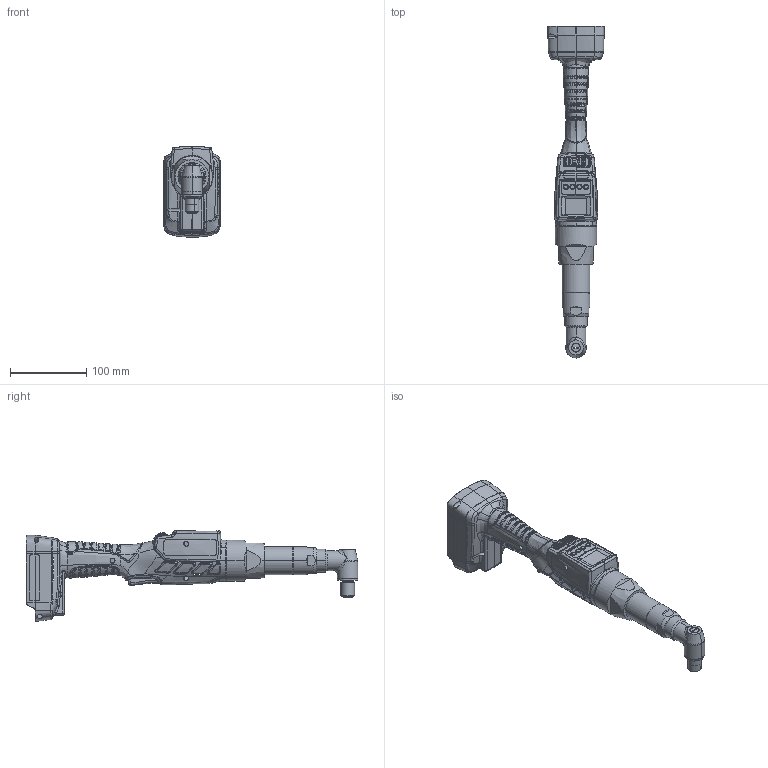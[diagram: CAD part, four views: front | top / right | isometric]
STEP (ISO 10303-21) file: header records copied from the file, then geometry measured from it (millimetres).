
FILE_DESCRIPTION (( 'STEP AP203' ), '1' );
FILE_NAME ('BMH3216-A 諼睡辨.STEP', '2021-03-04T00:27:16', ( '' ), ( '' ), 'SwSTEP 2.0', 'SolidWorks 2020', '' );
FILE_SCHEMA (( 'CONFIG_CONTROL_DESIGN' ));
Length unit declared in the file: millimetre
Products named in the file (1): BMH3216-A 諼睡辨
Bounding box: 74.18 x 436.39 x 119.33 mm (x, y, z)
Surface area: 104563.7 mm2 (no closed solid volume)
Topology: 0 solids, 34 shells, 1544 faces, 5116 edges, 3474 vertices
Faces by surface type: bspline 975, plane 241, cylinder 235, sphere 45, cone 34, torus 14
Entity records: 131417 total; most frequent: CARTESIAN_POINT 98176, ORIENTED_EDGE 8079, EDGE_CURVE 5102, DIRECTION 3566, VERTEX_POINT 3471, B_SPLINE_CURVE_WITH_KNOTS 2883, EDGE_LOOP 1621, ADVANCED_FACE 1543
